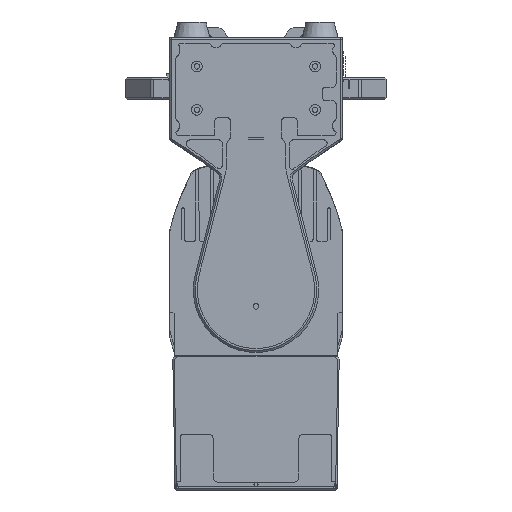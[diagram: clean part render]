
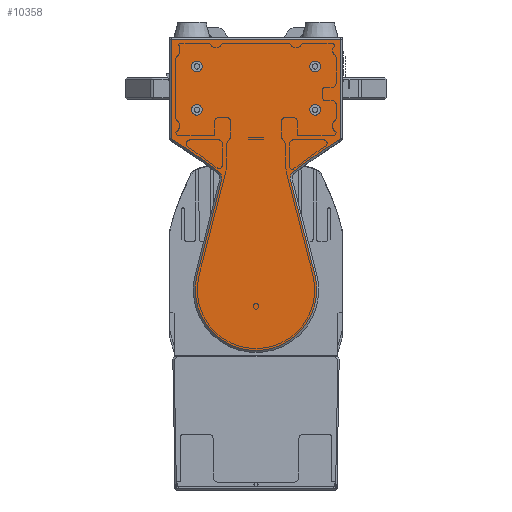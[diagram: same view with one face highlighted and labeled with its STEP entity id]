
A CAD part, front view. The second image highlights one B-rep face of the part: STEP entity #10358.
In plain terms, the highlighted planar face has unit normal (0, -1, 0).
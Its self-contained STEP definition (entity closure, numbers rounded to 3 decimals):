
#7116=DIRECTION('',(-1.,0.,0.));
#7117=VECTOR('',#7116,126.);
#7118=CARTESIAN_POINT('',(63.,-500.,
0.5));
#7119=LINE('',#7118,#7117);
#7120=CARTESIAN_POINT('',(63.,-500.,0.));
#7121=DIRECTION('',(0.,-1.,0.));
#7122=DIRECTION('',(1.,0.,0.));
#7123=AXIS2_PLACEMENT_3D('',#7120,#7121,#7122);
#7125=DIRECTION('',(0.,0.,1.));
#7126=VECTOR('',#7125,73.876);
#7127=CARTESIAN_POINT('',(63.5,-500.,-73.876));
#7128=LINE('',#7127,#7126);
#7129=CARTESIAN_POINT('',(63.,-500.,-73.876));
#7130=DIRECTION('',(0.,-1.,0.));
#7131=DIRECTION('',(0.521,0.,-0.853));
#7132=AXIS2_PLACEMENT_3D('',#7129,#7130,#7131);
#7134=CARTESIAN_POINT('',(255.36,-500.,-388.771));
#7135=DIRECTION('',(0.,1.,0.));
#7136=DIRECTION('',(-0.617,0.,0.787));
#7137=AXIS2_PLACEMENT_3D('',#7134,#7135,#7136);
#7139=CARTESIAN_POINT('',(32.139,-500.,-103.786));
#7140=DIRECTION('',(0.,1.,0.));
#7141=DIRECTION('',(-0.968,0.,-0.25));
#7142=AXIS2_PLACEMENT_3D('',#7139,#7140,#7141);
#7144=DIRECTION('',(-0.25,0.,0.968));
#7145=VECTOR('',#7144,72.71);
#7146=CARTESIAN_POINT('',(44.051,-500.,
-175.808));
#7147=LINE('',#7146,#7145);
#7148=CARTESIAN_POINT('',(0.,-500.,-187.2));
#7149=DIRECTION('',(0.,-1.,0.));
#7150=DIRECTION('',(-0.968,0.,0.25));
#7151=AXIS2_PLACEMENT_3D('',#7148,#7149,#7150);
#7153=DIRECTION('',(-0.25,0.,-0.968));
#7154=VECTOR('',#7153,72.71);
#7155=CARTESIAN_POINT('',(-25.846,-500.,
-105.414));
#7156=LINE('',#7155,#7154);
#7157=CARTESIAN_POINT('',(-32.139,-500.,-103.786));
#7158=DIRECTION('',(0.,1.,0.));
#7159=DIRECTION('',(0.617,0.,0.787));
#7160=AXIS2_PLACEMENT_3D('',#7157,#7158,#7159);
#7162=CARTESIAN_POINT('',(-255.36,-500.,-388.771));
#7163=DIRECTION('',(0.,1.,0.));
#7164=DIRECTION('',(0.521,0.,0.853));
#7165=AXIS2_PLACEMENT_3D('',#7162,#7163,#7164);
#7167=CARTESIAN_POINT('',(-63.,-500.,-73.876));
#7168=DIRECTION('',(0.,-1.,0.));
#7169=DIRECTION('',(-1.,0.,0.));
#7170=AXIS2_PLACEMENT_3D('',#7167,#7168,#7169);
#7172=DIRECTION('',(0.,0.,-1.));
#7173=VECTOR('',#7172,73.876);
#7174=CARTESIAN_POINT('',(-63.5,-500.,
0.));
#7175=LINE('',#7174,#7173);
#7176=CARTESIAN_POINT('',(-63.,-500.,0.));
#7177=DIRECTION('',(0.,-1.,0.));
#7178=DIRECTION('',(0.,0.,1.));
#7179=AXIS2_PLACEMENT_3D('',#7176,#7177,#7178);
#9636=CARTESIAN_POINT('',(63.,-500.,
0.5));
#9637=CARTESIAN_POINT('',(-63.,-500.,
0.5));
#9638=VERTEX_POINT('',#9636);
#9639=VERTEX_POINT('',#9637);
#9644=CARTESIAN_POINT('',(-63.5,-500.,
0.));
#9645=CARTESIAN_POINT('',(-63.5,-500.,
-73.876));
#9646=VERTEX_POINT('',#9644);
#9647=VERTEX_POINT('',#9645);
#9652=CARTESIAN_POINT('',(-63.261,-500.,-74.303));
#9653=CARTESIAN_POINT('',(-28.13,-500.,-98.669));
#9654=VERTEX_POINT('',#9652);
#9655=VERTEX_POINT('',#9653);
#9658=CARTESIAN_POINT('',(-25.846,-500.,-105.414));
#9659=VERTEX_POINT('',#9658);
#9662=CARTESIAN_POINT('',(-44.051,-500.,
-175.808));
#9663=VERTEX_POINT('',#9662);
#9666=CARTESIAN_POINT('',(44.051,-500.,-175.808));
#9667=VERTEX_POINT('',#9666);
#9670=CARTESIAN_POINT('',(25.846,-500.,
-105.414));
#9671=VERTEX_POINT('',#9670);
#9674=CARTESIAN_POINT('',(28.13,-500.,-98.669));
#9675=VERTEX_POINT('',#9674);
#9678=CARTESIAN_POINT('',(63.261,-500.,-74.303));
#9679=VERTEX_POINT('',#9678);
#9684=CARTESIAN_POINT('',(63.5,-500.,-73.876));
#9685=CARTESIAN_POINT('',(63.5,-500.,
0.));
#9686=VERTEX_POINT('',#9684);
#9687=VERTEX_POINT('',#9685);
#10323=CARTESIAN_POINT('',(0.,-500.,-187.2));
#10324=DIRECTION('',(0.,1.,0.));
#10325=DIRECTION('',(1.,0.,0.));
#10326=AXIS2_PLACEMENT_3D('',#10323,#10324,#10325);
#10327=PLANE('',#10326);
#10329=ORIENTED_EDGE('',*,*,#10328,.F.);
#10331=ORIENTED_EDGE('',*,*,#10330,.F.);
#10333=ORIENTED_EDGE('',*,*,#10332,.F.);
#10335=ORIENTED_EDGE('',*,*,#10334,.F.);
#10337=ORIENTED_EDGE('',*,*,#10336,.F.);
#10339=ORIENTED_EDGE('',*,*,#10338,.F.);
#10341=ORIENTED_EDGE('',*,*,#10340,.F.);
#10343=ORIENTED_EDGE('',*,*,#10342,.F.);
#10345=ORIENTED_EDGE('',*,*,#10344,.F.);
#10347=ORIENTED_EDGE('',*,*,#10346,.F.);
#10349=ORIENTED_EDGE('',*,*,#10348,.F.);
#10351=ORIENTED_EDGE('',*,*,#10350,.F.);
#10353=ORIENTED_EDGE('',*,*,#10352,.F.);
#10355=ORIENTED_EDGE('',*,*,#10354,.F.);
#10356=EDGE_LOOP('',(#10329,#10331,#10333,#10335,#10337,#10339,#10341,#10343,
#10345,#10347,#10349,#10351,#10353,#10355));
#10357=FACE_OUTER_BOUND('',#10356,.F.);
#7124=CIRCLE('',#7123,0.5);
#7133=CIRCLE('',#7132,0.5);
#7138=CIRCLE('',#7137,368.5);
#7143=CIRCLE('',#7142,6.5);
#7152=CIRCLE('',#7151,45.5);
#7161=CIRCLE('',#7160,6.5);
#7166=CIRCLE('',#7165,368.5);
#7171=CIRCLE('',#7170,0.5);
#7180=CIRCLE('',#7179,0.5);
#10328=EDGE_CURVE('',#9638,#9639,#7119,.T.);
#10330=EDGE_CURVE('',#9687,#9638,#7124,.T.);
#10332=EDGE_CURVE('',#9686,#9687,#7128,.T.);
#10334=EDGE_CURVE('',#9679,#9686,#7133,.T.);
#10336=EDGE_CURVE('',#9675,#9679,#7138,.T.);
#10338=EDGE_CURVE('',#9671,#9675,#7143,.T.);
#10340=EDGE_CURVE('',#9667,#9671,#7147,.T.);
#10342=EDGE_CURVE('',#9663,#9667,#7152,.T.);
#10344=EDGE_CURVE('',#9659,#9663,#7156,.T.);
#10346=EDGE_CURVE('',#9655,#9659,#7161,.T.);
#10348=EDGE_CURVE('',#9654,#9655,#7166,.T.);
#10350=EDGE_CURVE('',#9647,#9654,#7171,.T.);
#10352=EDGE_CURVE('',#9646,#9647,#7175,.T.);
#10354=EDGE_CURVE('',#9639,#9646,#7180,.T.);
#10358=ADVANCED_FACE('',(#10357),#10327,.F.);
